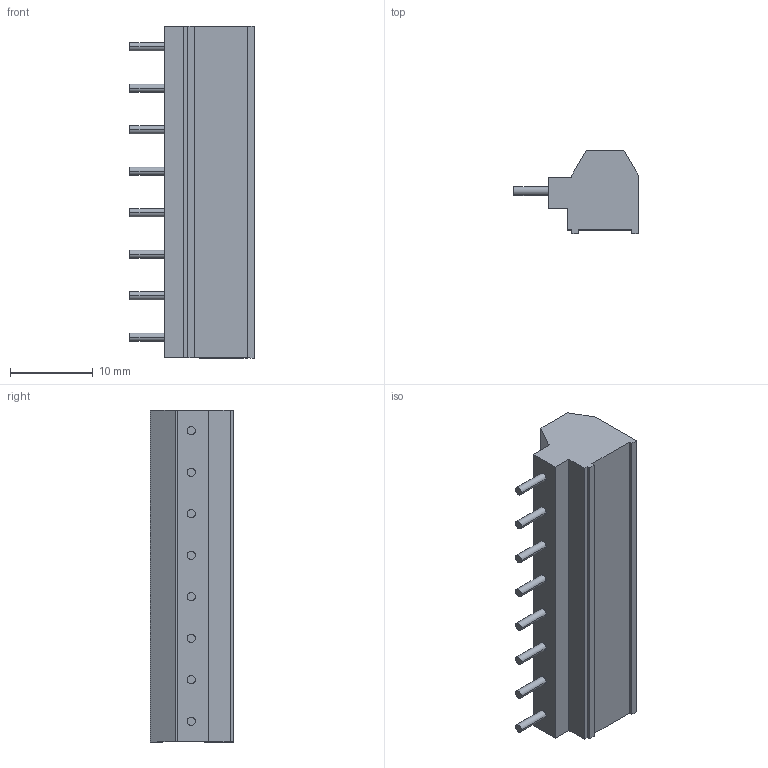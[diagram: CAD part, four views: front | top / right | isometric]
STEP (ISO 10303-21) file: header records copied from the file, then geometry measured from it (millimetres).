
FILE_DESCRIPTION (( 'STEP AP214' ), '1' );
FILE_NAME ('951-LH-DS-08.STEP', '2008-01-22T06:11:58', ( ' ' ), ( '' ), 'SwSTEP 2.0', 'SolidWorks 2007', '' );
FILE_SCHEMA (( 'AUTOMOTIVE_DESIGN' ));
Length unit declared in the file: millimetre
Products named in the file (1): 951-LH-DS-08
Bounding box: 15 x 10 x 40 mm (x, y, z)
Volume: 2986.7 mm3; surface area: 2620.4 mm2
Topology: 1 solids, 1 shells, 546 faces, 1720 edges, 1144 vertices
Faces by surface type: plane 354, cylinder 112, bspline 48, cone 32
Entity records: 20999 total; most frequent: CARTESIAN_POINT 5955, ORIENTED_EDGE 3440, DIRECTION 2862, EDGE_CURVE 1720, VERTEX_POINT 1144, VECTOR 968, LINE 968, AXIS2_PLACEMENT_3D 947
